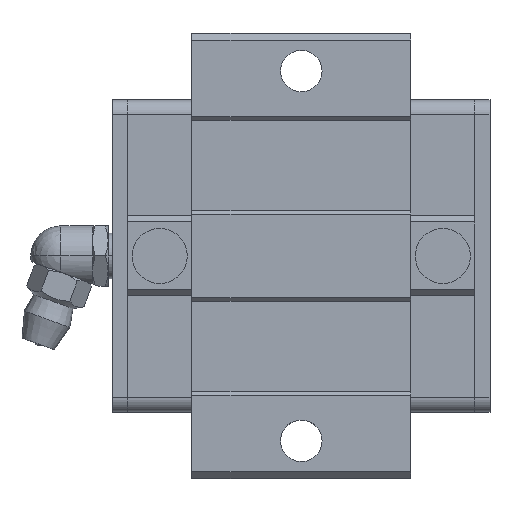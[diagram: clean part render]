
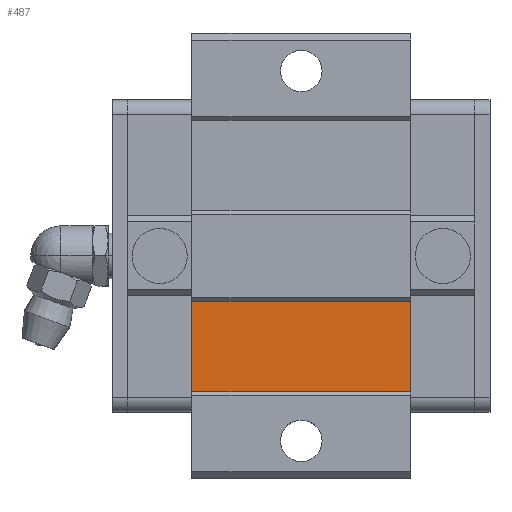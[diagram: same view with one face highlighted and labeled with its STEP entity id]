
A CAD part, top view. The second image highlights one B-rep face of the part: STEP entity #487.
In plain terms, the highlighted planar face has unit normal (0, 0, 1).
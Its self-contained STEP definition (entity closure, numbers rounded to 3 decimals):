
#448=CARTESIAN_POINT('POINT38',(39.5,-18.,21.55));
#449=VERTEX_POINT('VERTEX38',#448);
#450=CARTESIAN_POINT('POINT39',(39.5,-6.,21.55)
   );
#451=VERTEX_POINT('VERTEX39',#450);
#452=CARTESIAN_POINT('POS52',(39.5,-6.,21.55));
#453=DIRECTION('DIR75',(0.,1.,0.));
#454=VECTOR('VEC29',#453,1.);
#455=LINE('STRAIGHT29',#452,#454);
#456=EDGE_CURVE('EDGE48',#449,#451,#455,.T.);
#457=ORIENTED_EDGE('COEDGE61',*,*,#456,.T.);
#458=CARTESIAN_POINT('POINT40',(10.5,-6.,21.55)
   );
#459=VERTEX_POINT('VERTEX40',#458);
#460=CARTESIAN_POINT('POS53',(10.5,-6.,21.55));
#461=DIRECTION('DIR76',(1.,0.,0.));
#462=VECTOR('VEC30',#461,1.);
#463=LINE('STRAIGHT30',#460,#462);
#464=EDGE_CURVE('EDGE49',#459,#451,#463,.T.);
#465=ORIENTED_EDGE('COEDGE62',*,*,#464,.F.);
#466=CARTESIAN_POINT('POINT41',(10.5,-18.,21.55));
#467=VERTEX_POINT('VERTEX41',#466);
#468=CARTESIAN_POINT('POS54',(10.5,-6.,21.55));
#469=DIRECTION('DIR77',(0.,-1.,0.));
#470=VECTOR('VEC31',#469,1.);
#471=LINE('STRAIGHT31',#468,#470);
#472=EDGE_CURVE('EDGE50',#459,#467,#471,.T.);
#473=ORIENTED_EDGE('COEDGE63',*,*,#472,.T.);
#474=CARTESIAN_POINT('POS55',(10.5,-18.,21.55));
#475=DIRECTION('DIR78',(1.,0.,0.));
#476=VECTOR('VEC32',#475,1.);
#477=LINE('STRAIGHT32',#474,#476);
#478=EDGE_CURVE('EDGE51',#467,#449,#477,.T.);
#479=ORIENTED_EDGE('COEDGE64',*,*,#478,.T.);
#480=EDGE_LOOP('NONE',(#457,#465,#473,#479));
#481=FACE_BOUND('LOOP1',#480,.T.);
#482=CARTESIAN_POINT('POS56',(10.5,-18.,21.55));
#483=DIRECTION('DIR79',(0.,0.,1.));
#484=DIRECTION('DIR80',(1.,0.,0.));
#485=AXIS2_PLACEMENT_3D('AXIS24',#482,#483,#484);
#486=PLANE('PLANE9',#485);
#487=ADVANCED_FACE('FACE14',(#481),#486,.T.);
